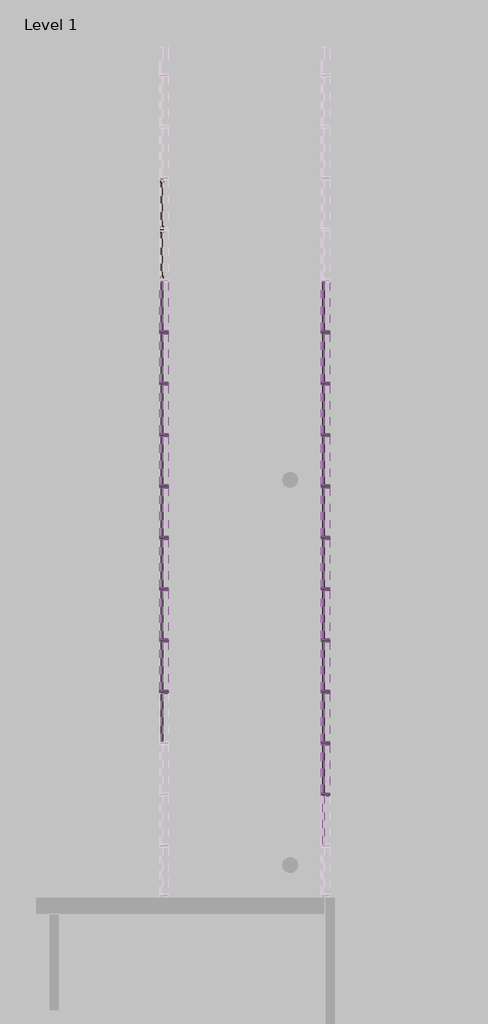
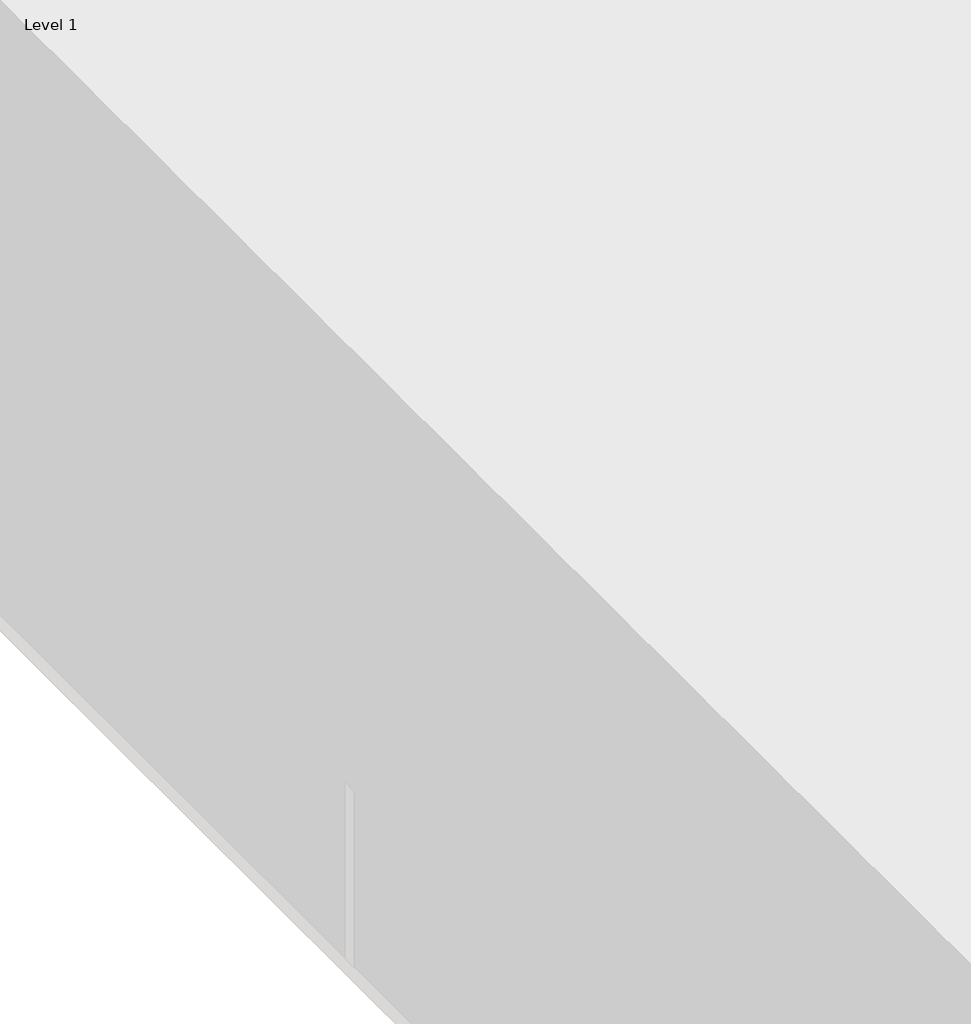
# One storey, part 2 of 5: 90 members, 39 plates, 1 door.
"""IFC4 building model written with IfcOpenShell, lengths in millimetres."""

from ifc_helpers import new_model, si_unit, origin, place, context, project, spatial, transform, mapped, element, save
from components import m_door_curtain_wall_double_storefront_m_door_curtain_wall_2970ffc3, rectangular_mullion_50mm_x_150mm_d427b131, rectangular_mullion_50mm_x_150mm_d8a63713, rectangular_mullion_50mm_x_150mm_a28728bf, rectangular_mullion_50mm_x_150mm_4471a7bc, system_panel_glazed_37b7c907, system_panel_glazed_1f05e993

model = new_model("IFC4")

# Units and contexts
model_context = context("Model", 3, world=origin())
ifc_project = project(units=[si_unit("LENGTHUNIT", "METRE", prefix="MILLI")], contexts=[model_context])

# Site, building, storey
site = spatial("IfcSite", under=ifc_project)
building = spatial("IfcBuilding", under=site)
storey = spatial("IfcBuildingStorey", under=building, Name="Level 1", Elevation=0.0)

# Door
placement = place(None, origin())
m_door_curtain_wall_double_storefront_m_door_curtain_wall_shape = m_door_curtain_wall_double_storefront_m_door_curtain_wall_2970ffc3(model_context)
element("IfcDoor", 1, ObjectType="M_Door-Curtain-Wall-Double-Storefront : M_Door-Curtain-Wall-Double-Storefront", at=placement, inside=storey, context=model_context, shape_type="MappedRepresentation", body=[
    mapped(m_door_curtain_wall_double_storefront_m_door_curtain_wall_shape, transform((-4803.8386635, 16994.8957697, 0.0), x_axis=(0.0, -1.0, 0.0), y_axis=(1.0, 0.0, 0.0), z_axis=(0.0, 0.0, 1.0))),
])

# Members
rectangular_mullion_50mm_x_150mm_shape = rectangular_mullion_50mm_x_150mm_d427b131(model_context)
element("IfcMember", 2, ObjectType="Rectangular Mullion : 50mm x 150mm", at=placement, inside=storey, context=model_context, shape_type="MappedRepresentation", body=[
    mapped(rectangular_mullion_50mm_x_150mm_shape, transform((-1903.8386635, 15178.001033, 3550.0), x_axis=(0.0, 0.0, 1.0), y_axis=(-1.0, 0.0, 0.0), z_axis=(0.0, -1.0, 0.0))),
])
element("IfcMember", 3, ObjectType="Rectangular Mullion : 50mm x 150mm", at=placement, inside=storey, context=model_context, shape_type="MappedRepresentation", body=[
    mapped(rectangular_mullion_50mm_x_150mm_shape, transform((-1903.8386635, 14257.0536646, 3550.0), x_axis=(0.0, 0.0, 1.0), y_axis=(-1.0, 0.0, 0.0), z_axis=(0.0, -1.0, 0.0))),
])
element("IfcMember", 4, ObjectType="Rectangular Mullion : 50mm x 150mm", at=placement, inside=storey, context=model_context, shape_type="MappedRepresentation", body=[
    mapped(rectangular_mullion_50mm_x_150mm_shape, transform((-1903.8386635, 13336.1062962, 3550.0), x_axis=(0.0, 0.0, 1.0), y_axis=(-1.0, 0.0, 0.0), z_axis=(0.0, -1.0, 0.0))),
])
element("IfcMember", 5, ObjectType="Rectangular Mullion : 50mm x 150mm", at=placement, inside=storey, context=model_context, shape_type="MappedRepresentation", body=[
    mapped(rectangular_mullion_50mm_x_150mm_shape, transform((-1903.8386635, 12415.1589278, 3550.0), x_axis=(0.0, 0.0, 1.0), y_axis=(-1.0, 0.0, 0.0), z_axis=(0.0, -1.0, 0.0))),
])
element("IfcMember", 6, ObjectType="Rectangular Mullion : 50mm x 150mm", at=placement, inside=storey, context=model_context, shape_type="MappedRepresentation", body=[
    mapped(rectangular_mullion_50mm_x_150mm_shape, transform((-1903.8386635, 11494.2115594, 3550.0), x_axis=(0.0, 0.0, 1.0), y_axis=(-1.0, 0.0, 0.0), z_axis=(0.0, -1.0, 0.0))),
])
element("IfcMember", 7, ObjectType="Rectangular Mullion : 50mm x 150mm", at=placement, inside=storey, context=model_context, shape_type="MappedRepresentation", body=[
    mapped(rectangular_mullion_50mm_x_150mm_shape, transform((-1903.8386635, 10573.264191, 3550.0), x_axis=(0.0, 0.0, 1.0), y_axis=(-1.0, 0.0, 0.0), z_axis=(0.0, -1.0, 0.0))),
])
element("IfcMember", 8, ObjectType="Rectangular Mullion : 50mm x 150mm", at=placement, inside=storey, context=model_context, shape_type="MappedRepresentation", body=[
    mapped(rectangular_mullion_50mm_x_150mm_shape, transform((-1903.8386635, 9652.3168226, 3550.0), x_axis=(0.0, 0.0, 1.0), y_axis=(-1.0, 0.0, 0.0), z_axis=(0.0, -1.0, 0.0))),
])
element("IfcMember", 9, ObjectType="Rectangular Mullion : 50mm x 150mm", at=placement, inside=storey, context=model_context, shape_type="MappedRepresentation", body=[
    mapped(rectangular_mullion_50mm_x_150mm_shape, transform((-1903.8386635, 8731.3694542, 3550.0), x_axis=(0.0, 0.0, 1.0), y_axis=(-1.0, 0.0, 0.0), z_axis=(0.0, -1.0, 0.0))),
])
element("IfcMember", 10, ObjectType="Rectangular Mullion : 50mm x 150mm", at=placement, inside=storey, context=model_context, shape_type="MappedRepresentation", body=[
    mapped(rectangular_mullion_50mm_x_150mm_shape, transform((-1903.8386635, 7810.4220859, 3550.0), x_axis=(0.0, 0.0, 1.0), y_axis=(-1.0, 0.0, 0.0), z_axis=(0.0, -1.0, 0.0))),
])
element("IfcMember", 11, ObjectType="Rectangular Mullion : 50mm x 150mm", at=placement, inside=storey, context=model_context, shape_type="MappedRepresentation", body=[
    mapped(rectangular_mullion_50mm_x_150mm_shape, transform((-1903.8386635, 6889.4747175, 3550.0), x_axis=(0.0, 0.0, 1.0), y_axis=(-1.0, 0.0, 0.0), z_axis=(0.0, -1.0, 0.0))),
])
element("IfcMember", 12, ObjectType="Rectangular Mullion : 50mm x 150mm", at=placement, inside=storey, context=model_context, shape_type="MappedRepresentation", body=[
    mapped(rectangular_mullion_50mm_x_150mm_shape, transform((-4803.8386635, 15178.001033, 3550.0), x_axis=(0.0, 0.0, 1.0), y_axis=(-1.0, 0.0, 0.0), z_axis=(0.0, -1.0, 0.0))),
])
element("IfcMember", 13, ObjectType="Rectangular Mullion : 50mm x 150mm", at=placement, inside=storey, context=model_context, shape_type="MappedRepresentation", body=[
    mapped(rectangular_mullion_50mm_x_150mm_shape, transform((-4803.8386635, 14257.0536646, 3550.0), x_axis=(0.0, 0.0, 1.0), y_axis=(-1.0, 0.0, 0.0), z_axis=(0.0, -1.0, 0.0))),
])
element("IfcMember", 14, ObjectType="Rectangular Mullion : 50mm x 150mm", at=placement, inside=storey, context=model_context, shape_type="MappedRepresentation", body=[
    mapped(rectangular_mullion_50mm_x_150mm_shape, transform((-4803.8386635, 13336.1062962, 3550.0), x_axis=(0.0, 0.0, 1.0), y_axis=(-1.0, 0.0, 0.0), z_axis=(0.0, -1.0, 0.0))),
])
element("IfcMember", 15, ObjectType="Rectangular Mullion : 50mm x 150mm", at=placement, inside=storey, context=model_context, shape_type="MappedRepresentation", body=[
    mapped(rectangular_mullion_50mm_x_150mm_shape, transform((-4803.8386635, 12415.1589278, 3550.0), x_axis=(0.0, 0.0, 1.0), y_axis=(-1.0, 0.0, 0.0), z_axis=(0.0, -1.0, 0.0))),
])
element("IfcMember", 16, ObjectType="Rectangular Mullion : 50mm x 150mm", at=placement, inside=storey, context=model_context, shape_type="MappedRepresentation", body=[
    mapped(rectangular_mullion_50mm_x_150mm_shape, transform((-4803.8386635, 11494.2115594, 3550.0), x_axis=(0.0, 0.0, 1.0), y_axis=(-1.0, 0.0, 0.0), z_axis=(0.0, -1.0, 0.0))),
])
element("IfcMember", 17, ObjectType="Rectangular Mullion : 50mm x 150mm", at=placement, inside=storey, context=model_context, shape_type="MappedRepresentation", body=[
    mapped(rectangular_mullion_50mm_x_150mm_shape, transform((-4803.8386635, 10573.264191, 3550.0), x_axis=(0.0, 0.0, 1.0), y_axis=(-1.0, 0.0, 0.0), z_axis=(0.0, -1.0, 0.0))),
])
element("IfcMember", 18, ObjectType="Rectangular Mullion : 50mm x 150mm", at=placement, inside=storey, context=model_context, shape_type="MappedRepresentation", body=[
    mapped(rectangular_mullion_50mm_x_150mm_shape, transform((-4803.8386635, 9652.3168226, 3550.0), x_axis=(0.0, 0.0, 1.0), y_axis=(-1.0, 0.0, 0.0), z_axis=(0.0, -1.0, 0.0))),
])
element("IfcMember", 19, ObjectType="Rectangular Mullion : 50mm x 150mm", at=placement, inside=storey, context=model_context, shape_type="MappedRepresentation", body=[
    mapped(rectangular_mullion_50mm_x_150mm_shape, transform((-4803.8386635, 8731.3694542, 3550.0), x_axis=(0.0, 0.0, 1.0), y_axis=(-1.0, 0.0, 0.0), z_axis=(0.0, -1.0, 0.0))),
])
element("IfcMember", 20, ObjectType="Rectangular Mullion : 50mm x 150mm", at=placement, inside=storey, context=model_context, shape_type="MappedRepresentation", body=[
    mapped(rectangular_mullion_50mm_x_150mm_shape, transform((-1903.8386635, 15128.001033, 0.0), x_axis=(0.0, 0.0, -1.0), y_axis=(-1.0, 0.0, 0.0), z_axis=(0.0, 1.0, 0.0))),
])
element("IfcMember", 21, ObjectType="Rectangular Mullion : 50mm x 150mm", at=placement, inside=storey, context=model_context, shape_type="MappedRepresentation", body=[
    mapped(rectangular_mullion_50mm_x_150mm_shape, transform((-1903.8386635, 14207.0536646, 0.0), x_axis=(0.0, 0.0, -1.0), y_axis=(-1.0, 0.0, 0.0), z_axis=(0.0, 1.0, 0.0))),
])
element("IfcMember", 22, ObjectType="Rectangular Mullion : 50mm x 150mm", at=placement, inside=storey, context=model_context, shape_type="MappedRepresentation", body=[
    mapped(rectangular_mullion_50mm_x_150mm_shape, transform((-1903.8386635, 13286.1062962, 0.0), x_axis=(0.0, 0.0, -1.0), y_axis=(-1.0, 0.0, 0.0), z_axis=(0.0, 1.0, 0.0))),
])
element("IfcMember", 23, ObjectType="Rectangular Mullion : 50mm x 150mm", at=placement, inside=storey, context=model_context, shape_type="MappedRepresentation", body=[
    mapped(rectangular_mullion_50mm_x_150mm_shape, transform((-1903.8386635, 12365.1589278, 0.0), x_axis=(0.0, 0.0, -1.0), y_axis=(-1.0, 0.0, 0.0), z_axis=(0.0, 1.0, 0.0))),
])
element("IfcMember", 24, ObjectType="Rectangular Mullion : 50mm x 150mm", at=placement, inside=storey, context=model_context, shape_type="MappedRepresentation", body=[
    mapped(rectangular_mullion_50mm_x_150mm_shape, transform((-1903.8386635, 11444.2115594, 0.0), x_axis=(0.0, 0.0, -1.0), y_axis=(-1.0, 0.0, 0.0), z_axis=(0.0, 1.0, 0.0))),
])
element("IfcMember", 25, ObjectType="Rectangular Mullion : 50mm x 150mm", at=placement, inside=storey, context=model_context, shape_type="MappedRepresentation", body=[
    mapped(rectangular_mullion_50mm_x_150mm_shape, transform((-1903.8386635, 10523.264191, 0.0), x_axis=(0.0, 0.0, -1.0), y_axis=(-1.0, 0.0, 0.0), z_axis=(0.0, 1.0, 0.0))),
])
element("IfcMember", 26, ObjectType="Rectangular Mullion : 50mm x 150mm", at=placement, inside=storey, context=model_context, shape_type="MappedRepresentation", body=[
    mapped(rectangular_mullion_50mm_x_150mm_shape, transform((-1903.8386635, 9602.3168226, 0.0), x_axis=(0.0, 0.0, -1.0), y_axis=(-1.0, 0.0, 0.0), z_axis=(0.0, 1.0, 0.0))),
])
element("IfcMember", 27, ObjectType="Rectangular Mullion : 50mm x 150mm", at=placement, inside=storey, context=model_context, shape_type="MappedRepresentation", body=[
    mapped(rectangular_mullion_50mm_x_150mm_shape, transform((-1903.8386635, 8681.3694542, 0.0), x_axis=(0.0, 0.0, -1.0), y_axis=(-1.0, 0.0, 0.0), z_axis=(0.0, 1.0, 0.0))),
])
element("IfcMember", 28, ObjectType="Rectangular Mullion : 50mm x 150mm", at=placement, inside=storey, context=model_context, shape_type="MappedRepresentation", body=[
    mapped(rectangular_mullion_50mm_x_150mm_shape, transform((-1903.8386635, 7760.4220859, 0.0), x_axis=(0.0, 0.0, -1.0), y_axis=(-1.0, 0.0, 0.0), z_axis=(0.0, 1.0, 0.0))),
])
element("IfcMember", 29, ObjectType="Rectangular Mullion : 50mm x 150mm", at=placement, inside=storey, context=model_context, shape_type="MappedRepresentation", body=[
    mapped(rectangular_mullion_50mm_x_150mm_shape, transform((-1903.8386635, 6839.4747175, 0.0), x_axis=(0.0, 0.0, -1.0), y_axis=(-1.0, 0.0, 0.0), z_axis=(0.0, 1.0, 0.0))),
])
element("IfcMember", 30, ObjectType="Rectangular Mullion : 50mm x 150mm", at=placement, inside=storey, context=model_context, shape_type="MappedRepresentation", body=[
    mapped(rectangular_mullion_50mm_x_150mm_shape, transform((-4803.8386635, 15128.001033, 0.0), x_axis=(0.0, 0.0, -1.0), y_axis=(-1.0, 0.0, 0.0), z_axis=(0.0, 1.0, 0.0))),
])
element("IfcMember", 31, ObjectType="Rectangular Mullion : 50mm x 150mm", at=placement, inside=storey, context=model_context, shape_type="MappedRepresentation", body=[
    mapped(rectangular_mullion_50mm_x_150mm_shape, transform((-4803.8386635, 14207.0536646, 0.0), x_axis=(0.0, 0.0, -1.0), y_axis=(-1.0, 0.0, 0.0), z_axis=(0.0, 1.0, 0.0))),
])
element("IfcMember", 32, ObjectType="Rectangular Mullion : 50mm x 150mm", at=placement, inside=storey, context=model_context, shape_type="MappedRepresentation", body=[
    mapped(rectangular_mullion_50mm_x_150mm_shape, transform((-4803.8386635, 13286.1062962, 0.0), x_axis=(0.0, 0.0, -1.0), y_axis=(-1.0, 0.0, 0.0), z_axis=(0.0, 1.0, 0.0))),
])
element("IfcMember", 33, ObjectType="Rectangular Mullion : 50mm x 150mm", at=placement, inside=storey, context=model_context, shape_type="MappedRepresentation", body=[
    mapped(rectangular_mullion_50mm_x_150mm_shape, transform((-4803.8386635, 12365.1589278, 0.0), x_axis=(0.0, 0.0, -1.0), y_axis=(-1.0, 0.0, 0.0), z_axis=(0.0, 1.0, 0.0))),
])
element("IfcMember", 34, ObjectType="Rectangular Mullion : 50mm x 150mm", at=placement, inside=storey, context=model_context, shape_type="MappedRepresentation", body=[
    mapped(rectangular_mullion_50mm_x_150mm_shape, transform((-4803.8386635, 11444.2115594, 0.0), x_axis=(0.0, 0.0, -1.0), y_axis=(-1.0, 0.0, 0.0), z_axis=(0.0, 1.0, 0.0))),
])
element("IfcMember", 35, ObjectType="Rectangular Mullion : 50mm x 150mm", at=placement, inside=storey, context=model_context, shape_type="MappedRepresentation", body=[
    mapped(rectangular_mullion_50mm_x_150mm_shape, transform((-4803.8386635, 10523.264191, 0.0), x_axis=(0.0, 0.0, -1.0), y_axis=(-1.0, 0.0, 0.0), z_axis=(0.0, 1.0, 0.0))),
])
element("IfcMember", 36, ObjectType="Rectangular Mullion : 50mm x 150mm", at=placement, inside=storey, context=model_context, shape_type="MappedRepresentation", body=[
    mapped(rectangular_mullion_50mm_x_150mm_shape, transform((-4803.8386635, 9602.3168226, 0.0), x_axis=(0.0, 0.0, -1.0), y_axis=(-1.0, 0.0, 0.0), z_axis=(0.0, 1.0, 0.0))),
])
element("IfcMember", 37, ObjectType="Rectangular Mullion : 50mm x 150mm", at=placement, inside=storey, context=model_context, shape_type="MappedRepresentation", body=[
    mapped(rectangular_mullion_50mm_x_150mm_shape, transform((-4803.8386635, 8681.3694542, 0.0), x_axis=(0.0, 0.0, -1.0), y_axis=(-1.0, 0.0, 0.0), z_axis=(0.0, 1.0, 0.0))),
])
rectangular_mullion_50mm_x_150mm_2_shape = rectangular_mullion_50mm_x_150mm_d8a63713(model_context)
element("IfcMember", 38, ObjectType="Rectangular Mullion : 50mm x 150mm", at=placement, inside=storey, context=model_context, shape_type="MappedRepresentation", body=[
    mapped(rectangular_mullion_50mm_x_150mm_2_shape, transform((-1903.8386635, 15153.001033, 0.0), x_axis=(0.0, -1.0, 0.0), y_axis=(-1.0, 0.0, 0.0), z_axis=(0.0, 0.0, -1.0))),
])
element("IfcMember", 39, ObjectType="Rectangular Mullion : 50mm x 150mm", at=placement, inside=storey, context=model_context, shape_type="MappedRepresentation", body=[
    mapped(rectangular_mullion_50mm_x_150mm_2_shape, transform((-1903.8386635, 14232.0536646, 0.0), x_axis=(0.0, -1.0, 0.0), y_axis=(-1.0, 0.0, 0.0), z_axis=(0.0, 0.0, -1.0))),
])
element("IfcMember", 40, ObjectType="Rectangular Mullion : 50mm x 150mm", at=placement, inside=storey, context=model_context, shape_type="MappedRepresentation", body=[
    mapped(rectangular_mullion_50mm_x_150mm_2_shape, transform((-1903.8386635, 13311.1062962, 0.0), x_axis=(0.0, -1.0, 0.0), y_axis=(-1.0, 0.0, 0.0), z_axis=(0.0, 0.0, -1.0))),
])
element("IfcMember", 41, ObjectType="Rectangular Mullion : 50mm x 150mm", at=placement, inside=storey, context=model_context, shape_type="MappedRepresentation", body=[
    mapped(rectangular_mullion_50mm_x_150mm_2_shape, transform((-1903.8386635, 12390.1589278, 0.0), x_axis=(0.0, -1.0, 0.0), y_axis=(-1.0, 0.0, 0.0), z_axis=(0.0, 0.0, -1.0))),
])
element("IfcMember", 42, ObjectType="Rectangular Mullion : 50mm x 150mm", at=placement, inside=storey, context=model_context, shape_type="MappedRepresentation", body=[
    mapped(rectangular_mullion_50mm_x_150mm_2_shape, transform((-1903.8386635, 11469.2115594, 0.0), x_axis=(0.0, -1.0, 0.0), y_axis=(-1.0, 0.0, 0.0), z_axis=(0.0, 0.0, -1.0))),
])
element("IfcMember", 43, ObjectType="Rectangular Mullion : 50mm x 150mm", at=placement, inside=storey, context=model_context, shape_type="MappedRepresentation", body=[
    mapped(rectangular_mullion_50mm_x_150mm_2_shape, transform((-1903.8386635, 10548.264191, 0.0), x_axis=(0.0, -1.0, 0.0), y_axis=(-1.0, 0.0, 0.0), z_axis=(0.0, 0.0, -1.0))),
])
element("IfcMember", 44, ObjectType="Rectangular Mullion : 50mm x 150mm", at=placement, inside=storey, context=model_context, shape_type="MappedRepresentation", body=[
    mapped(rectangular_mullion_50mm_x_150mm_2_shape, transform((-1903.8386635, 9627.3168226, 0.0), x_axis=(0.0, -1.0, 0.0), y_axis=(-1.0, 0.0, 0.0), z_axis=(0.0, 0.0, -1.0))),
])
element("IfcMember", 45, ObjectType="Rectangular Mullion : 50mm x 150mm", at=placement, inside=storey, context=model_context, shape_type="MappedRepresentation", body=[
    mapped(rectangular_mullion_50mm_x_150mm_2_shape, transform((-1903.8386635, 8706.3694542, 0.0), x_axis=(0.0, -1.0, 0.0), y_axis=(-1.0, 0.0, 0.0), z_axis=(0.0, 0.0, -1.0))),
])
element("IfcMember", 46, ObjectType="Rectangular Mullion : 50mm x 150mm", at=placement, inside=storey, context=model_context, shape_type="MappedRepresentation", body=[
    mapped(rectangular_mullion_50mm_x_150mm_2_shape, transform((-1903.8386635, 7785.4220859, 0.0), x_axis=(0.0, -1.0, 0.0), y_axis=(-1.0, 0.0, 0.0), z_axis=(0.0, 0.0, -1.0))),
])
element("IfcMember", 47, ObjectType="Rectangular Mullion : 50mm x 150mm", at=placement, inside=storey, context=model_context, shape_type="MappedRepresentation", body=[
    mapped(rectangular_mullion_50mm_x_150mm_2_shape, transform((-1903.8386635, 6864.4747175, 0.0), x_axis=(0.0, -1.0, 0.0), y_axis=(-1.0, 0.0, 0.0), z_axis=(0.0, 0.0, -1.0))),
])
element("IfcMember", 48, ObjectType="Rectangular Mullion : 50mm x 150mm", at=placement, inside=storey, context=model_context, shape_type="MappedRepresentation", body=[
    mapped(rectangular_mullion_50mm_x_150mm_2_shape, transform((-4803.8386635, 15153.001033, 0.0), x_axis=(0.0, -1.0, 0.0), y_axis=(-1.0, 0.0, 0.0), z_axis=(0.0, 0.0, -1.0))),
])
element("IfcMember", 49, ObjectType="Rectangular Mullion : 50mm x 150mm", at=placement, inside=storey, context=model_context, shape_type="MappedRepresentation", body=[
    mapped(rectangular_mullion_50mm_x_150mm_2_shape, transform((-4803.8386635, 14232.0536646, 0.0), x_axis=(0.0, -1.0, 0.0), y_axis=(-1.0, 0.0, 0.0), z_axis=(0.0, 0.0, -1.0))),
])
element("IfcMember", 50, ObjectType="Rectangular Mullion : 50mm x 150mm", at=placement, inside=storey, context=model_context, shape_type="MappedRepresentation", body=[
    mapped(rectangular_mullion_50mm_x_150mm_2_shape, transform((-4803.8386635, 13311.1062962, 0.0), x_axis=(0.0, -1.0, 0.0), y_axis=(-1.0, 0.0, 0.0), z_axis=(0.0, 0.0, -1.0))),
])
element("IfcMember", 51, ObjectType="Rectangular Mullion : 50mm x 150mm", at=placement, inside=storey, context=model_context, shape_type="MappedRepresentation", body=[
    mapped(rectangular_mullion_50mm_x_150mm_2_shape, transform((-4803.8386635, 12390.1589278, 0.0), x_axis=(0.0, -1.0, 0.0), y_axis=(-1.0, 0.0, 0.0), z_axis=(0.0, 0.0, -1.0))),
])
element("IfcMember", 52, ObjectType="Rectangular Mullion : 50mm x 150mm", at=placement, inside=storey, context=model_context, shape_type="MappedRepresentation", body=[
    mapped(rectangular_mullion_50mm_x_150mm_2_shape, transform((-4803.8386635, 11469.2115594, 0.0), x_axis=(0.0, -1.0, 0.0), y_axis=(-1.0, 0.0, 0.0), z_axis=(0.0, 0.0, -1.0))),
])
element("IfcMember", 53, ObjectType="Rectangular Mullion : 50mm x 150mm", at=placement, inside=storey, context=model_context, shape_type="MappedRepresentation", body=[
    mapped(rectangular_mullion_50mm_x_150mm_2_shape, transform((-4803.8386635, 10548.264191, 0.0), x_axis=(0.0, -1.0, 0.0), y_axis=(-1.0, 0.0, 0.0), z_axis=(0.0, 0.0, -1.0))),
])
element("IfcMember", 54, ObjectType="Rectangular Mullion : 50mm x 150mm", at=placement, inside=storey, context=model_context, shape_type="MappedRepresentation", body=[
    mapped(rectangular_mullion_50mm_x_150mm_2_shape, transform((-4803.8386635, 9627.3168226, 0.0), x_axis=(0.0, -1.0, 0.0), y_axis=(-1.0, 0.0, 0.0), z_axis=(0.0, 0.0, -1.0))),
])
element("IfcMember", 55, ObjectType="Rectangular Mullion : 50mm x 150mm", at=placement, inside=storey, context=model_context, shape_type="MappedRepresentation", body=[
    mapped(rectangular_mullion_50mm_x_150mm_2_shape, transform((-4803.8386635, 8706.3694542, 0.0), x_axis=(0.0, -1.0, 0.0), y_axis=(-1.0, 0.0, 0.0), z_axis=(0.0, 0.0, -1.0))),
])
rectangular_mullion_50mm_x_150mm_3_shape = rectangular_mullion_50mm_x_150mm_a28728bf(model_context)
element("IfcMember", 56, ObjectType="Rectangular Mullion : 50mm x 150mm", at=placement, inside=storey, context=model_context, shape_type="MappedRepresentation", body=[
    mapped(rectangular_mullion_50mm_x_150mm_3_shape, transform((-1903.8386635, 15153.001033, 2135.0), x_axis=(0.0, -1.0, 0.0), y_axis=(-1.0, 0.0, 0.0), z_axis=(0.0, 0.0, -1.0))),
])
element("IfcMember", 57, ObjectType="Rectangular Mullion : 50mm x 150mm", at=placement, inside=storey, context=model_context, shape_type="MappedRepresentation", body=[
    mapped(rectangular_mullion_50mm_x_150mm_3_shape, transform((-1903.8386635, 14232.0536646, 2135.0), x_axis=(0.0, -1.0, 0.0), y_axis=(-1.0, 0.0, 0.0), z_axis=(0.0, 0.0, -1.0))),
])
element("IfcMember", 58, ObjectType="Rectangular Mullion : 50mm x 150mm", at=placement, inside=storey, context=model_context, shape_type="MappedRepresentation", body=[
    mapped(rectangular_mullion_50mm_x_150mm_3_shape, transform((-1903.8386635, 13311.1062962, 2135.0), x_axis=(0.0, -1.0, 0.0), y_axis=(-1.0, 0.0, 0.0), z_axis=(0.0, 0.0, -1.0))),
])
element("IfcMember", 59, ObjectType="Rectangular Mullion : 50mm x 150mm", at=placement, inside=storey, context=model_context, shape_type="MappedRepresentation", body=[
    mapped(rectangular_mullion_50mm_x_150mm_3_shape, transform((-1903.8386635, 12390.1589278, 2135.0), x_axis=(0.0, -1.0, 0.0), y_axis=(-1.0, 0.0, 0.0), z_axis=(0.0, 0.0, -1.0))),
])
element("IfcMember", 60, ObjectType="Rectangular Mullion : 50mm x 150mm", at=placement, inside=storey, context=model_context, shape_type="MappedRepresentation", body=[
    mapped(rectangular_mullion_50mm_x_150mm_3_shape, transform((-1903.8386635, 11469.2115594, 2135.0), x_axis=(0.0, -1.0, 0.0), y_axis=(-1.0, 0.0, 0.0), z_axis=(0.0, 0.0, -1.0))),
])
element("IfcMember", 61, ObjectType="Rectangular Mullion : 50mm x 150mm", at=placement, inside=storey, context=model_context, shape_type="MappedRepresentation", body=[
    mapped(rectangular_mullion_50mm_x_150mm_3_shape, transform((-1903.8386635, 10548.264191, 2135.0), x_axis=(0.0, -1.0, 0.0), y_axis=(-1.0, 0.0, 0.0), z_axis=(0.0, 0.0, -1.0))),
])
element("IfcMember", 62, ObjectType="Rectangular Mullion : 50mm x 150mm", at=placement, inside=storey, context=model_context, shape_type="MappedRepresentation", body=[
    mapped(rectangular_mullion_50mm_x_150mm_3_shape, transform((-1903.8386635, 9627.3168226, 2135.0), x_axis=(0.0, -1.0, 0.0), y_axis=(-1.0, 0.0, 0.0), z_axis=(0.0, 0.0, -1.0))),
])
element("IfcMember", 63, ObjectType="Rectangular Mullion : 50mm x 150mm", at=placement, inside=storey, context=model_context, shape_type="MappedRepresentation", body=[
    mapped(rectangular_mullion_50mm_x_150mm_3_shape, transform((-1903.8386635, 8706.3694542, 2135.0), x_axis=(0.0, -1.0, 0.0), y_axis=(-1.0, 0.0, 0.0), z_axis=(0.0, 0.0, -1.0))),
])
element("IfcMember", 64, ObjectType="Rectangular Mullion : 50mm x 150mm", at=placement, inside=storey, context=model_context, shape_type="MappedRepresentation", body=[
    mapped(rectangular_mullion_50mm_x_150mm_3_shape, transform((-1903.8386635, 7785.4220859, 2135.0), x_axis=(0.0, -1.0, 0.0), y_axis=(-1.0, 0.0, 0.0), z_axis=(0.0, 0.0, -1.0))),
])
element("IfcMember", 65, ObjectType="Rectangular Mullion : 50mm x 150mm", at=placement, inside=storey, context=model_context, shape_type="MappedRepresentation", body=[
    mapped(rectangular_mullion_50mm_x_150mm_3_shape, transform((-1903.8386635, 6864.4747175, 2135.0), x_axis=(0.0, -1.0, 0.0), y_axis=(-1.0, 0.0, 0.0), z_axis=(0.0, 0.0, -1.0))),
])
element("IfcMember", 66, ObjectType="Rectangular Mullion : 50mm x 150mm", at=placement, inside=storey, context=model_context, shape_type="MappedRepresentation", body=[
    mapped(rectangular_mullion_50mm_x_150mm_3_shape, transform((-4803.8386635, 15153.001033, 2135.0), x_axis=(0.0, -1.0, 0.0), y_axis=(-1.0, 0.0, 0.0), z_axis=(0.0, 0.0, -1.0))),
])
element("IfcMember", 67, ObjectType="Rectangular Mullion : 50mm x 150mm", at=placement, inside=storey, context=model_context, shape_type="MappedRepresentation", body=[
    mapped(rectangular_mullion_50mm_x_150mm_3_shape, transform((-4803.8386635, 14232.0536646, 2135.0), x_axis=(0.0, -1.0, 0.0), y_axis=(-1.0, 0.0, 0.0), z_axis=(0.0, 0.0, -1.0))),
])
element("IfcMember", 68, ObjectType="Rectangular Mullion : 50mm x 150mm", at=placement, inside=storey, context=model_context, shape_type="MappedRepresentation", body=[
    mapped(rectangular_mullion_50mm_x_150mm_3_shape, transform((-4803.8386635, 13311.1062962, 2135.0), x_axis=(0.0, -1.0, 0.0), y_axis=(-1.0, 0.0, 0.0), z_axis=(0.0, 0.0, -1.0))),
])
element("IfcMember", 69, ObjectType="Rectangular Mullion : 50mm x 150mm", at=placement, inside=storey, context=model_context, shape_type="MappedRepresentation", body=[
    mapped(rectangular_mullion_50mm_x_150mm_3_shape, transform((-4803.8386635, 12390.1589278, 2135.0), x_axis=(0.0, -1.0, 0.0), y_axis=(-1.0, 0.0, 0.0), z_axis=(0.0, 0.0, -1.0))),
])
element("IfcMember", 70, ObjectType="Rectangular Mullion : 50mm x 150mm", at=placement, inside=storey, context=model_context, shape_type="MappedRepresentation", body=[
    mapped(rectangular_mullion_50mm_x_150mm_3_shape, transform((-4803.8386635, 11469.2115594, 2135.0), x_axis=(0.0, -1.0, 0.0), y_axis=(-1.0, 0.0, 0.0), z_axis=(0.0, 0.0, -1.0))),
])
element("IfcMember", 71, ObjectType="Rectangular Mullion : 50mm x 150mm", at=placement, inside=storey, context=model_context, shape_type="MappedRepresentation", body=[
    mapped(rectangular_mullion_50mm_x_150mm_3_shape, transform((-4803.8386635, 10548.264191, 2135.0), x_axis=(0.0, -1.0, 0.0), y_axis=(-1.0, 0.0, 0.0), z_axis=(0.0, 0.0, -1.0))),
])
element("IfcMember", 72, ObjectType="Rectangular Mullion : 50mm x 150mm", at=placement, inside=storey, context=model_context, shape_type="MappedRepresentation", body=[
    mapped(rectangular_mullion_50mm_x_150mm_3_shape, transform((-4803.8386635, 9627.3168226, 2135.0), x_axis=(0.0, -1.0, 0.0), y_axis=(-1.0, 0.0, 0.0), z_axis=(0.0, 0.0, -1.0))),
])
element("IfcMember", 73, ObjectType="Rectangular Mullion : 50mm x 150mm", at=placement, inside=storey, context=model_context, shape_type="MappedRepresentation", body=[
    mapped(rectangular_mullion_50mm_x_150mm_3_shape, transform((-4803.8386635, 8706.3694542, 2135.0), x_axis=(0.0, -1.0, 0.0), y_axis=(-1.0, 0.0, 0.0), z_axis=(0.0, 0.0, -1.0))),
])
rectangular_mullion_50mm_x_150mm_4_shape = rectangular_mullion_50mm_x_150mm_4471a7bc(model_context)
element("IfcMember", 74, ObjectType="Rectangular Mullion : 50mm x 150mm", at=placement, inside=storey, context=model_context, shape_type="MappedRepresentation", body=[
    mapped(rectangular_mullion_50mm_x_150mm_4_shape, transform((-1903.8386635, 15178.001033, 2135.0), x_axis=(0.0, 0.0, 1.0), y_axis=(-1.0, 0.0, 0.0), z_axis=(0.0, -1.0, 0.0))),
])
element("IfcMember", 75, ObjectType="Rectangular Mullion : 50mm x 150mm", at=placement, inside=storey, context=model_context, shape_type="MappedRepresentation", body=[
    mapped(rectangular_mullion_50mm_x_150mm_4_shape, transform((-1903.8386635, 14257.0536646, 2135.0), x_axis=(0.0, 0.0, 1.0), y_axis=(-1.0, 0.0, 0.0), z_axis=(0.0, -1.0, 0.0))),
])
element("IfcMember", 76, ObjectType="Rectangular Mullion : 50mm x 150mm", at=placement, inside=storey, context=model_context, shape_type="MappedRepresentation", body=[
    mapped(rectangular_mullion_50mm_x_150mm_4_shape, transform((-1903.8386635, 13336.1062962, 2135.0), x_axis=(0.0, 0.0, 1.0), y_axis=(-1.0, 0.0, 0.0), z_axis=(0.0, -1.0, 0.0))),
])
element("IfcMember", 77, ObjectType="Rectangular Mullion : 50mm x 150mm", at=placement, inside=storey, context=model_context, shape_type="MappedRepresentation", body=[
    mapped(rectangular_mullion_50mm_x_150mm_4_shape, transform((-1903.8386635, 12415.1589278, 2135.0), x_axis=(0.0, 0.0, 1.0), y_axis=(-1.0, 0.0, 0.0), z_axis=(0.0, -1.0, 0.0))),
])
element("IfcMember", 78, ObjectType="Rectangular Mullion : 50mm x 150mm", at=placement, inside=storey, context=model_context, shape_type="MappedRepresentation", body=[
    mapped(rectangular_mullion_50mm_x_150mm_4_shape, transform((-1903.8386635, 11494.2115594, 2135.0), x_axis=(0.0, 0.0, 1.0), y_axis=(-1.0, 0.0, 0.0), z_axis=(0.0, -1.0, 0.0))),
])
element("IfcMember", 79, ObjectType="Rectangular Mullion : 50mm x 150mm", at=placement, inside=storey, context=model_context, shape_type="MappedRepresentation", body=[
    mapped(rectangular_mullion_50mm_x_150mm_4_shape, transform((-1903.8386635, 10573.264191, 2135.0), x_axis=(0.0, 0.0, 1.0), y_axis=(-1.0, 0.0, 0.0), z_axis=(0.0, -1.0, 0.0))),
])
element("IfcMember", 80, ObjectType="Rectangular Mullion : 50mm x 150mm", at=placement, inside=storey, context=model_context, shape_type="MappedRepresentation", body=[
    mapped(rectangular_mullion_50mm_x_150mm_4_shape, transform((-1903.8386635, 9652.3168226, 2135.0), x_axis=(0.0, 0.0, 1.0), y_axis=(-1.0, 0.0, 0.0), z_axis=(0.0, -1.0, 0.0))),
])
element("IfcMember", 81, ObjectType="Rectangular Mullion : 50mm x 150mm", at=placement, inside=storey, context=model_context, shape_type="MappedRepresentation", body=[
    mapped(rectangular_mullion_50mm_x_150mm_4_shape, transform((-1903.8386635, 8731.3694542, 2135.0), x_axis=(0.0, 0.0, 1.0), y_axis=(-1.0, 0.0, 0.0), z_axis=(0.0, -1.0, 0.0))),
])
element("IfcMember", 82, ObjectType="Rectangular Mullion : 50mm x 150mm", at=placement, inside=storey, context=model_context, shape_type="MappedRepresentation", body=[
    mapped(rectangular_mullion_50mm_x_150mm_4_shape, transform((-1903.8386635, 7810.4220859, 2135.0), x_axis=(0.0, 0.0, 1.0), y_axis=(-1.0, 0.0, 0.0), z_axis=(0.0, -1.0, 0.0))),
])
element("IfcMember", 83, ObjectType="Rectangular Mullion : 50mm x 150mm", at=placement, inside=storey, context=model_context, shape_type="MappedRepresentation", body=[
    mapped(rectangular_mullion_50mm_x_150mm_4_shape, transform((-1903.8386635, 6889.4747175, 2135.0), x_axis=(0.0, 0.0, 1.0), y_axis=(-1.0, 0.0, 0.0), z_axis=(0.0, -1.0, 0.0))),
])
element("IfcMember", 84, ObjectType="Rectangular Mullion : 50mm x 150mm", at=placement, inside=storey, context=model_context, shape_type="MappedRepresentation", body=[
    mapped(rectangular_mullion_50mm_x_150mm_4_shape, transform((-4803.8386635, 15178.001033, 2135.0), x_axis=(0.0, 0.0, 1.0), y_axis=(-1.0, 0.0, 0.0), z_axis=(0.0, -1.0, 0.0))),
])
element("IfcMember", 85, ObjectType="Rectangular Mullion : 50mm x 150mm", at=placement, inside=storey, context=model_context, shape_type="MappedRepresentation", body=[
    mapped(rectangular_mullion_50mm_x_150mm_4_shape, transform((-4803.8386635, 14257.0536646, 2135.0), x_axis=(0.0, 0.0, 1.0), y_axis=(-1.0, 0.0, 0.0), z_axis=(0.0, -1.0, 0.0))),
])
element("IfcMember", 86, ObjectType="Rectangular Mullion : 50mm x 150mm", at=placement, inside=storey, context=model_context, shape_type="MappedRepresentation", body=[
    mapped(rectangular_mullion_50mm_x_150mm_4_shape, transform((-4803.8386635, 13336.1062962, 2135.0), x_axis=(0.0, 0.0, 1.0), y_axis=(-1.0, 0.0, 0.0), z_axis=(0.0, -1.0, 0.0))),
])
element("IfcMember", 87, ObjectType="Rectangular Mullion : 50mm x 150mm", at=placement, inside=storey, context=model_context, shape_type="MappedRepresentation", body=[
    mapped(rectangular_mullion_50mm_x_150mm_4_shape, transform((-4803.8386635, 12415.1589278, 2135.0), x_axis=(0.0, 0.0, 1.0), y_axis=(-1.0, 0.0, 0.0), z_axis=(0.0, -1.0, 0.0))),
])
element("IfcMember", 88, ObjectType="Rectangular Mullion : 50mm x 150mm", at=placement, inside=storey, context=model_context, shape_type="MappedRepresentation", body=[
    mapped(rectangular_mullion_50mm_x_150mm_4_shape, transform((-4803.8386635, 11494.2115594, 2135.0), x_axis=(0.0, 0.0, 1.0), y_axis=(-1.0, 0.0, 0.0), z_axis=(0.0, -1.0, 0.0))),
])
element("IfcMember", 89, ObjectType="Rectangular Mullion : 50mm x 150mm", at=placement, inside=storey, context=model_context, shape_type="MappedRepresentation", body=[
    mapped(rectangular_mullion_50mm_x_150mm_4_shape, transform((-4803.8386635, 10573.264191, 2135.0), x_axis=(0.0, 0.0, 1.0), y_axis=(-1.0, 0.0, 0.0), z_axis=(0.0, -1.0, 0.0))),
])
element("IfcMember", 90, ObjectType="Rectangular Mullion : 50mm x 150mm", at=placement, inside=storey, context=model_context, shape_type="MappedRepresentation", body=[
    mapped(rectangular_mullion_50mm_x_150mm_4_shape, transform((-4803.8386635, 9652.3168226, 2135.0), x_axis=(0.0, 0.0, 1.0), y_axis=(-1.0, 0.0, 0.0), z_axis=(0.0, -1.0, 0.0))),
])
element("IfcMember", 91, ObjectType="Rectangular Mullion : 50mm x 150mm", at=placement, inside=storey, context=model_context, shape_type="MappedRepresentation", body=[
    mapped(rectangular_mullion_50mm_x_150mm_4_shape, transform((-4803.8386635, 8731.3694542, 2135.0), x_axis=(0.0, 0.0, 1.0), y_axis=(-1.0, 0.0, 0.0), z_axis=(0.0, -1.0, 0.0))),
])

# Plates
system_panel_glazed_shape = system_panel_glazed_37b7c907(model_context)
element("IfcPlate", 92, ObjectType="System Panel : Glazed", at=placement, inside=storey, context=model_context, shape_type="MappedRepresentation", body=[
    mapped(system_panel_glazed_shape, transform((-1903.8386635, 14692.5273488, 50.0), x_axis=(0.0, -1.0, 0.0), y_axis=(1.0, 0.0, 0.0), z_axis=(0.0, 0.0, 1.0))),
])
element("IfcPlate", 93, ObjectType="System Panel : Glazed", at=placement, inside=storey, context=model_context, shape_type="MappedRepresentation", body=[
    mapped(system_panel_glazed_shape, transform((-1903.8386635, 13771.5799804, 50.0), x_axis=(0.0, -1.0, 0.0), y_axis=(1.0, 0.0, 0.0), z_axis=(0.0, 0.0, 1.0))),
])
element("IfcPlate", 94, ObjectType="System Panel : Glazed", at=placement, inside=storey, context=model_context, shape_type="MappedRepresentation", body=[
    mapped(system_panel_glazed_shape, transform((-1903.8386635, 12850.632612, 50.0), x_axis=(0.0, -1.0, 0.0), y_axis=(1.0, 0.0, 0.0), z_axis=(0.0, 0.0, 1.0))),
])
element("IfcPlate", 95, ObjectType="System Panel : Glazed", at=placement, inside=storey, context=model_context, shape_type="MappedRepresentation", body=[
    mapped(system_panel_glazed_shape, transform((-1903.8386635, 11929.6852436, 50.0), x_axis=(0.0, -1.0, 0.0), y_axis=(1.0, 0.0, 0.0), z_axis=(0.0, 0.0, 1.0))),
])
element("IfcPlate", 96, ObjectType="System Panel : Glazed", at=placement, inside=storey, context=model_context, shape_type="MappedRepresentation", body=[
    mapped(system_panel_glazed_shape, transform((-1903.8386635, 11008.7378752, 50.0), x_axis=(0.0, -1.0, 0.0), y_axis=(1.0, 0.0, 0.0), z_axis=(0.0, 0.0, 1.0))),
])
element("IfcPlate", 97, ObjectType="System Panel : Glazed", at=placement, inside=storey, context=model_context, shape_type="MappedRepresentation", body=[
    mapped(system_panel_glazed_shape, transform((-1903.8386635, 10087.7905068, 50.0), x_axis=(0.0, -1.0, 0.0), y_axis=(1.0, 0.0, 0.0), z_axis=(0.0, 0.0, 1.0))),
])
element("IfcPlate", 98, ObjectType="System Panel : Glazed", at=placement, inside=storey, context=model_context, shape_type="MappedRepresentation", body=[
    mapped(system_panel_glazed_shape, transform((-1903.8386635, 9166.8431384, 50.0), x_axis=(0.0, -1.0, 0.0), y_axis=(1.0, 0.0, 0.0), z_axis=(0.0, 0.0, 1.0))),
])
element("IfcPlate", 99, ObjectType="System Panel : Glazed", at=placement, inside=storey, context=model_context, shape_type="MappedRepresentation", body=[
    mapped(system_panel_glazed_shape, transform((-1903.8386635, 8245.8957701, 50.0), x_axis=(0.0, -1.0, 0.0), y_axis=(1.0, 0.0, 0.0), z_axis=(0.0, 0.0, 1.0))),
])
element("IfcPlate", 100, ObjectType="System Panel : Glazed", at=placement, inside=storey, context=model_context, shape_type="MappedRepresentation", body=[
    mapped(system_panel_glazed_shape, transform((-1903.8386635, 7324.9484017, 50.0), x_axis=(0.0, -1.0, 0.0), y_axis=(1.0, 0.0, 0.0), z_axis=(0.0, 0.0, 1.0))),
])
element("IfcPlate", 101, ObjectType="System Panel : Glazed", at=placement, inside=storey, context=model_context, shape_type="MappedRepresentation", body=[
    mapped(system_panel_glazed_shape, transform((-1903.8386635, 15613.4747172, 50.0), x_axis=(0.0, -1.0, 0.0), y_axis=(1.0, 0.0, 0.0), z_axis=(0.0, 0.0, 1.0))),
])
element("IfcPlate", 102, ObjectType="System Panel : Glazed", at=placement, inside=storey, context=model_context, shape_type="MappedRepresentation", body=[
    mapped(system_panel_glazed_shape, transform((-4803.8386635, 14692.5273488, 50.0), x_axis=(0.0, -1.0, 0.0), y_axis=(1.0, 0.0, 0.0), z_axis=(0.0, 0.0, 1.0))),
])
element("IfcPlate", 103, ObjectType="System Panel : Glazed", at=placement, inside=storey, context=model_context, shape_type="MappedRepresentation", body=[
    mapped(system_panel_glazed_shape, transform((-4803.8386635, 13771.5799804, 50.0), x_axis=(0.0, -1.0, 0.0), y_axis=(1.0, 0.0, 0.0), z_axis=(0.0, 0.0, 1.0))),
])
element("IfcPlate", 104, ObjectType="System Panel : Glazed", at=placement, inside=storey, context=model_context, shape_type="MappedRepresentation", body=[
    mapped(system_panel_glazed_shape, transform((-4803.8386635, 12850.632612, 50.0), x_axis=(0.0, -1.0, 0.0), y_axis=(1.0, 0.0, 0.0), z_axis=(0.0, 0.0, 1.0))),
])
element("IfcPlate", 105, ObjectType="System Panel : Glazed", at=placement, inside=storey, context=model_context, shape_type="MappedRepresentation", body=[
    mapped(system_panel_glazed_shape, transform((-4803.8386635, 11929.6852436, 50.0), x_axis=(0.0, -1.0, 0.0), y_axis=(1.0, 0.0, 0.0), z_axis=(0.0, 0.0, 1.0))),
])
element("IfcPlate", 106, ObjectType="System Panel : Glazed", at=placement, inside=storey, context=model_context, shape_type="MappedRepresentation", body=[
    mapped(system_panel_glazed_shape, transform((-4803.8386635, 11008.7378752, 50.0), x_axis=(0.0, -1.0, 0.0), y_axis=(1.0, 0.0, 0.0), z_axis=(0.0, 0.0, 1.0))),
])
element("IfcPlate", 107, ObjectType="System Panel : Glazed", at=placement, inside=storey, context=model_context, shape_type="MappedRepresentation", body=[
    mapped(system_panel_glazed_shape, transform((-4803.8386635, 10087.7905068, 50.0), x_axis=(0.0, -1.0, 0.0), y_axis=(1.0, 0.0, 0.0), z_axis=(0.0, 0.0, 1.0))),
])
element("IfcPlate", 108, ObjectType="System Panel : Glazed", at=placement, inside=storey, context=model_context, shape_type="MappedRepresentation", body=[
    mapped(system_panel_glazed_shape, transform((-4803.8386635, 9166.8431384, 50.0), x_axis=(0.0, -1.0, 0.0), y_axis=(1.0, 0.0, 0.0), z_axis=(0.0, 0.0, 1.0))),
])
element("IfcPlate", 109, ObjectType="System Panel : Glazed", at=placement, inside=storey, context=model_context, shape_type="MappedRepresentation", body=[
    mapped(system_panel_glazed_shape, transform((-4803.8386635, 8245.8957701, 50.0), x_axis=(0.0, -1.0, 0.0), y_axis=(1.0, 0.0, 0.0), z_axis=(0.0, 0.0, 1.0))),
])
element("IfcPlate", 110, ObjectType="System Panel : Glazed", at=placement, inside=storey, context=model_context, shape_type="MappedRepresentation", body=[
    mapped(system_panel_glazed_shape, transform((-4803.8386635, 15613.4747172, 50.0), x_axis=(0.0, -1.0, 0.0), y_axis=(1.0, 0.0, 0.0), z_axis=(0.0, 0.0, 1.0))),
])
system_panel_glazed_2_shape = system_panel_glazed_1f05e993(model_context)
element("IfcPlate", 111, ObjectType="System Panel : Glazed", at=placement, inside=storey, context=model_context, shape_type="MappedRepresentation", body=[
    mapped(system_panel_glazed_2_shape, transform((-1903.8386635, 15613.4747172, 2160.0), x_axis=(0.0, -1.0, 0.0), y_axis=(1.0, 0.0, 0.0), z_axis=(0.0, 0.0, 1.0))),
])
element("IfcPlate", 112, ObjectType="System Panel : Glazed", at=placement, inside=storey, context=model_context, shape_type="MappedRepresentation", body=[
    mapped(system_panel_glazed_2_shape, transform((-1903.8386635, 14692.5273488, 2160.0), x_axis=(0.0, -1.0, 0.0), y_axis=(1.0, 0.0, 0.0), z_axis=(0.0, 0.0, 1.0))),
])
element("IfcPlate", 113, ObjectType="System Panel : Glazed", at=placement, inside=storey, context=model_context, shape_type="MappedRepresentation", body=[
    mapped(system_panel_glazed_2_shape, transform((-1903.8386635, 13771.5799804, 2160.0), x_axis=(0.0, -1.0, 0.0), y_axis=(1.0, 0.0, 0.0), z_axis=(0.0, 0.0, 1.0))),
])
element("IfcPlate", 114, ObjectType="System Panel : Glazed", at=placement, inside=storey, context=model_context, shape_type="MappedRepresentation", body=[
    mapped(system_panel_glazed_2_shape, transform((-1903.8386635, 12850.632612, 2160.0), x_axis=(0.0, -1.0, 0.0), y_axis=(1.0, 0.0, 0.0), z_axis=(0.0, 0.0, 1.0))),
])
element("IfcPlate", 115, ObjectType="System Panel : Glazed", at=placement, inside=storey, context=model_context, shape_type="MappedRepresentation", body=[
    mapped(system_panel_glazed_2_shape, transform((-1903.8386635, 11929.6852436, 2160.0), x_axis=(0.0, -1.0, 0.0), y_axis=(1.0, 0.0, 0.0), z_axis=(0.0, 0.0, 1.0))),
])
element("IfcPlate", 116, ObjectType="System Panel : Glazed", at=placement, inside=storey, context=model_context, shape_type="MappedRepresentation", body=[
    mapped(system_panel_glazed_2_shape, transform((-1903.8386635, 11008.7378752, 2160.0), x_axis=(0.0, -1.0, 0.0), y_axis=(1.0, 0.0, 0.0), z_axis=(0.0, 0.0, 1.0))),
])
element("IfcPlate", 117, ObjectType="System Panel : Glazed", at=placement, inside=storey, context=model_context, shape_type="MappedRepresentation", body=[
    mapped(system_panel_glazed_2_shape, transform((-1903.8386635, 10087.7905068, 2160.0), x_axis=(0.0, -1.0, 0.0), y_axis=(1.0, 0.0, 0.0), z_axis=(0.0, 0.0, 1.0))),
])
element("IfcPlate", 118, ObjectType="System Panel : Glazed", at=placement, inside=storey, context=model_context, shape_type="MappedRepresentation", body=[
    mapped(system_panel_glazed_2_shape, transform((-1903.8386635, 9166.8431384, 2160.0), x_axis=(0.0, -1.0, 0.0), y_axis=(1.0, 0.0, 0.0), z_axis=(0.0, 0.0, 1.0))),
])
element("IfcPlate", 119, ObjectType="System Panel : Glazed", at=placement, inside=storey, context=model_context, shape_type="MappedRepresentation", body=[
    mapped(system_panel_glazed_2_shape, transform((-1903.8386635, 8245.8957701, 2160.0), x_axis=(0.0, -1.0, 0.0), y_axis=(1.0, 0.0, 0.0), z_axis=(0.0, 0.0, 1.0))),
])
element("IfcPlate", 120, ObjectType="System Panel : Glazed", at=placement, inside=storey, context=model_context, shape_type="MappedRepresentation", body=[
    mapped(system_panel_glazed_2_shape, transform((-1903.8386635, 7324.9484017, 2160.0), x_axis=(0.0, -1.0, 0.0), y_axis=(1.0, 0.0, 0.0), z_axis=(0.0, 0.0, 1.0))),
])
element("IfcPlate", 121, ObjectType="System Panel : Glazed", at=placement, inside=storey, context=model_context, shape_type="MappedRepresentation", body=[
    mapped(system_panel_glazed_2_shape, transform((-1903.8386635, 6404.0010333, 2160.0), x_axis=(0.0, -1.0, 0.0), y_axis=(1.0, 0.0, 0.0), z_axis=(0.0, 0.0, 1.0))),
])
element("IfcPlate", 122, ObjectType="System Panel : Glazed", at=placement, inside=storey, context=model_context, shape_type="MappedRepresentation", body=[
    mapped(system_panel_glazed_2_shape, transform((-4803.8386635, 15613.4747172, 2160.0), x_axis=(0.0, -1.0, 0.0), y_axis=(1.0, 0.0, 0.0), z_axis=(0.0, 0.0, 1.0))),
])
element("IfcPlate", 123, ObjectType="System Panel : Glazed", at=placement, inside=storey, context=model_context, shape_type="MappedRepresentation", body=[
    mapped(system_panel_glazed_2_shape, transform((-4803.8386635, 14692.5273488, 2160.0), x_axis=(0.0, -1.0, 0.0), y_axis=(1.0, 0.0, 0.0), z_axis=(0.0, 0.0, 1.0))),
])
element("IfcPlate", 124, ObjectType="System Panel : Glazed", at=placement, inside=storey, context=model_context, shape_type="MappedRepresentation", body=[
    mapped(system_panel_glazed_2_shape, transform((-4803.8386635, 13771.5799804, 2160.0), x_axis=(0.0, -1.0, 0.0), y_axis=(1.0, 0.0, 0.0), z_axis=(0.0, 0.0, 1.0))),
])
element("IfcPlate", 125, ObjectType="System Panel : Glazed", at=placement, inside=storey, context=model_context, shape_type="MappedRepresentation", body=[
    mapped(system_panel_glazed_2_shape, transform((-4803.8386635, 12850.632612, 2160.0), x_axis=(0.0, -1.0, 0.0), y_axis=(1.0, 0.0, 0.0), z_axis=(0.0, 0.0, 1.0))),
])
element("IfcPlate", 126, ObjectType="System Panel : Glazed", at=placement, inside=storey, context=model_context, shape_type="MappedRepresentation", body=[
    mapped(system_panel_glazed_2_shape, transform((-4803.8386635, 11929.6852436, 2160.0), x_axis=(0.0, -1.0, 0.0), y_axis=(1.0, 0.0, 0.0), z_axis=(0.0, 0.0, 1.0))),
])
element("IfcPlate", 127, ObjectType="System Panel : Glazed", at=placement, inside=storey, context=model_context, shape_type="MappedRepresentation", body=[
    mapped(system_panel_glazed_2_shape, transform((-4803.8386635, 11008.7378752, 2160.0), x_axis=(0.0, -1.0, 0.0), y_axis=(1.0, 0.0, 0.0), z_axis=(0.0, 0.0, 1.0))),
])
element("IfcPlate", 128, ObjectType="System Panel : Glazed", at=placement, inside=storey, context=model_context, shape_type="MappedRepresentation", body=[
    mapped(system_panel_glazed_2_shape, transform((-4803.8386635, 10087.7905068, 2160.0), x_axis=(0.0, -1.0, 0.0), y_axis=(1.0, 0.0, 0.0), z_axis=(0.0, 0.0, 1.0))),
])
element("IfcPlate", 129, ObjectType="System Panel : Glazed", at=placement, inside=storey, context=model_context, shape_type="MappedRepresentation", body=[
    mapped(system_panel_glazed_2_shape, transform((-4803.8386635, 9166.8431384, 2160.0), x_axis=(0.0, -1.0, 0.0), y_axis=(1.0, 0.0, 0.0), z_axis=(0.0, 0.0, 1.0))),
])
element("IfcPlate", 130, ObjectType="System Panel : Glazed", at=placement, inside=storey, context=model_context, shape_type="MappedRepresentation", body=[
    mapped(system_panel_glazed_2_shape, transform((-4803.8386635, 8245.8957701, 2160.0), x_axis=(0.0, -1.0, 0.0), y_axis=(1.0, 0.0, 0.0), z_axis=(0.0, 0.0, 1.0))),
])

save(model, "model.ifc")
